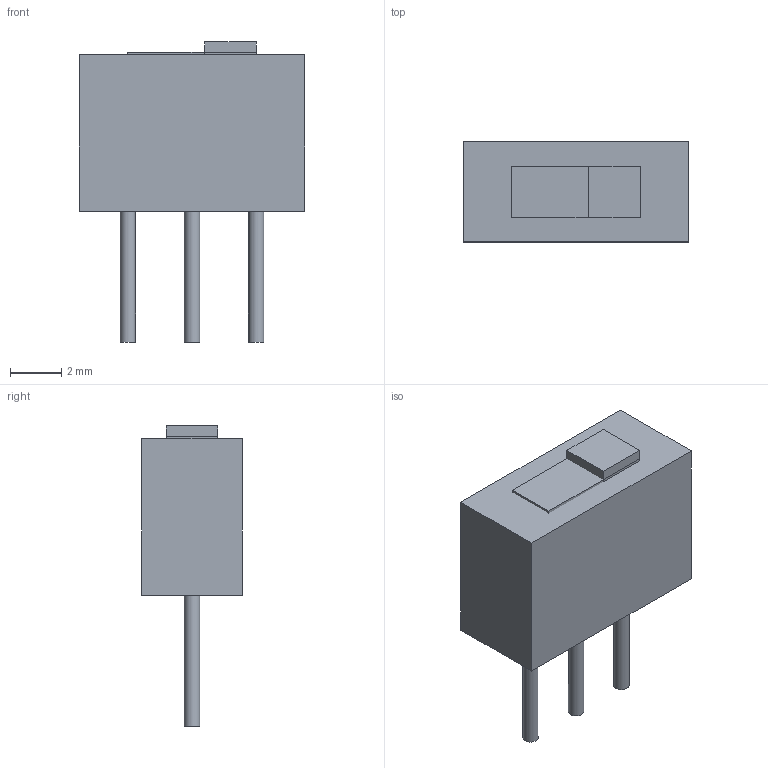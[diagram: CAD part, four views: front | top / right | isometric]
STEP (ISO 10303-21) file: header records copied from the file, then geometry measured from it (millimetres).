
FILE_DESCRIPTION(('FreeCAD Model'),'2;1');
FILE_NAME('Open CASCADE Shape Model','2024-03-10T19:35:07',( 'kicad StepUp'),('ksu MCAD'),'Open CASCADE STEP processor 7.6', 'FreeCAD','Unknown');
FILE_SCHEMA(('AUTOMOTIVE_DESIGN { 1 0 10303 214 1 1 1 1 }'));
Length unit declared in the file: millimetre
Products named in the file (7): Body_mp006; Body_mp; Body_mp001; Body_mp002; Body_mp003; Body_mp004; Body_mp005
Assembly tree (6 placements, depth 2):
  Body_mp006
    Body_mp
    Body_mp001
    Body_mp002
    Body_mp003
    Body_mp004
    Body_mp005
Bounding box: 8.8 x 3.9 x 11.7 mm (x, y, z)
Volume: 217.7 mm3; surface area: 288.9 mm2
Topology: 6 solids, 6 shells, 27 faces, 45 edges, 30 vertices
Faces by surface type: plane 24, cylinder 3
Full cylindrical faces by diameter (mm): 0.6 x3
Entity records: 798 total; most frequent: DIRECTION 119, CARTESIAN_POINT 109, ORIENTED_EDGE 90, EDGE_CURVE 45, AXIS2_PLACEMENT_3D 40, LINE 39, VECTOR 39, VERTEX_POINT 30
